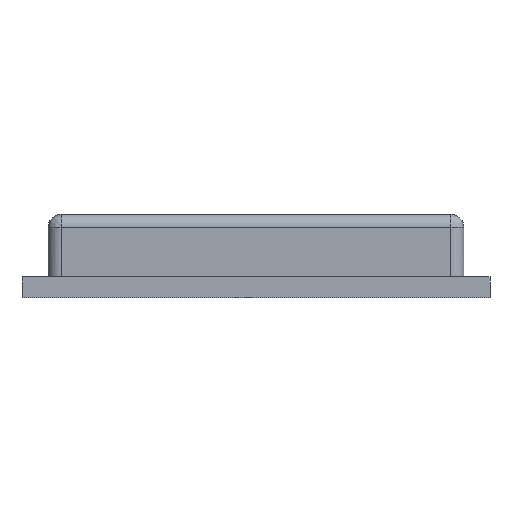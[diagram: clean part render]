
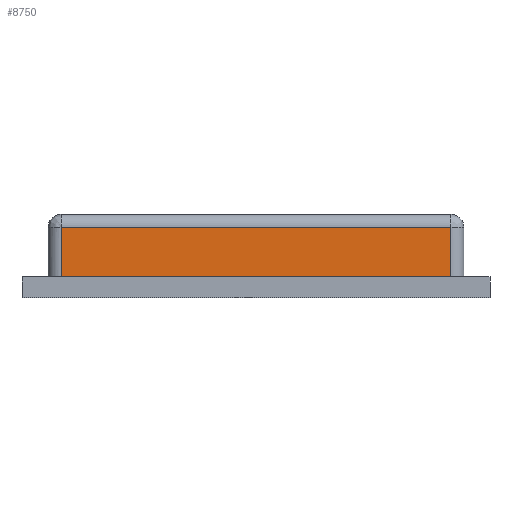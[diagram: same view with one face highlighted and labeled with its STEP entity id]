
A CAD part, left-side view. The second image highlights one B-rep face of the part: STEP entity #8750.
In plain terms, the highlighted planar face has unit normal (-1, 0, 0).
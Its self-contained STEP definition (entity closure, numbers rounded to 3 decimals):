
#160 = CARTESIAN_POINT ( 'NONE',  ( -6.15, 7.5, 26.581 ) ) ;
#563 = CARTESIAN_POINT ( 'NONE',  ( -6.15, -7.5, 2.067 ) ) ;
#919 = LINE ( 'NONE', #14107, #11047 ) ;
#983 = PLANE ( 'NONE',  #14343 ) ;
#2361 = CARTESIAN_POINT ( 'NONE',  ( -6.15, 7.5, 0.8 ) ) ;
#2369 = VERTEX_POINT ( 'NONE', #4870 ) ;
#2372 = EDGE_CURVE ( 'NONE', #11095, #12383, #3712, .T. ) ;
#2379 = DIRECTION ( 'NONE',  ( 0., -1., 0. ) ) ;
#2440 = DIRECTION ( 'NONE',  ( 0., 0., 1. ) ) ;
#2453 = CARTESIAN_POINT ( 'NONE',  ( -6.15, 0., 0.8 ) ) ;
#2502 = DIRECTION ( 'NONE',  ( 0., 1., 0. ) ) ;
#2990 = LINE ( 'NONE', #2453, #4646 ) ;
#3712 = LINE ( 'NONE', #160, #9837 ) ;
#4127 = CARTESIAN_POINT ( 'NONE',  ( -6.15, -7.5, 0.8 ) ) ;
#4349 = CARTESIAN_POINT ( 'NONE',  ( -6.15, 8., 26.581 ) ) ;
#4447 = DIRECTION ( 'NONE',  ( 0., 0., -1. ) ) ;
#4646 = VECTOR ( 'NONE', #2502, 1000. ) ;
#4870 = CARTESIAN_POINT ( 'NONE',  ( -6.15, -7.5, 2.7 ) ) ;
#5243 = ORIENTED_EDGE ( 'NONE', *, *, #13820, .F. ) ;
#5367 = CARTESIAN_POINT ( 'NONE',  ( -6.15, -7.5, 0.8 ) ) ;
#7257 = VERTEX_POINT ( 'NONE', #5367 ) ;
#8169 = FACE_OUTER_BOUND ( 'NONE', #8886, .T. ) ;
#8316 = EDGE_CURVE ( 'NONE', #12383, #2369, #919, .T. ) ;
#8616 = CARTESIAN_POINT ( 'NONE',  ( -6.15, -7.5, 1.433 ) ) ;
#8750 = ADVANCED_FACE ( 'NONE', ( #8169 ), #983, .F. ) ;
#8886 = EDGE_LOOP ( 'NONE', ( #5243, #12068, #11804, #13758 ) ) ;
#9837 = VECTOR ( 'NONE', #2440, 1000. ) ;
#10742 = CARTESIAN_POINT ( 'NONE',  ( -6.15, 7.5, 2.7 ) ) ;
#11047 = VECTOR ( 'NONE', #2379, 1000. ) ;
#11095 = VERTEX_POINT ( 'NONE', #2361 ) ;
#11804 = ORIENTED_EDGE ( 'NONE', *, *, #8316, .F. ) ;
#12068 = ORIENTED_EDGE ( 'NONE', *, *, #12180, .F. ) ;
#12180 = EDGE_CURVE ( 'NONE', #2369, #7257, #12639, .T. ) ;
#12383 = VERTEX_POINT ( 'NONE', #10742 ) ;
#12639 = B_SPLINE_CURVE_WITH_KNOTS ( 'NONE', 3,
 ( #14635, #563, #8616, #4127 ),
 .UNSPECIFIED., .F., .F.,
 ( 4, 4 ),
 ( 0., 1. ),
 .UNSPECIFIED. ) ;
#13758 = ORIENTED_EDGE ( 'NONE', *, *, #2372, .F. ) ;
#13820 = EDGE_CURVE ( 'NONE', #7257, #11095, #2990, .T. ) ;
#14107 = CARTESIAN_POINT ( 'NONE',  ( -6.15, 8., 2.7 ) ) ;
#14343 = AXIS2_PLACEMENT_3D ( 'NONE', #4349, #14660, #4447 ) ;
#14635 = CARTESIAN_POINT ( 'NONE',  ( -6.15, -7.5, 2.7 ) ) ;
#14660 = DIRECTION ( 'NONE',  ( 1., 0., 0. ) ) ;
